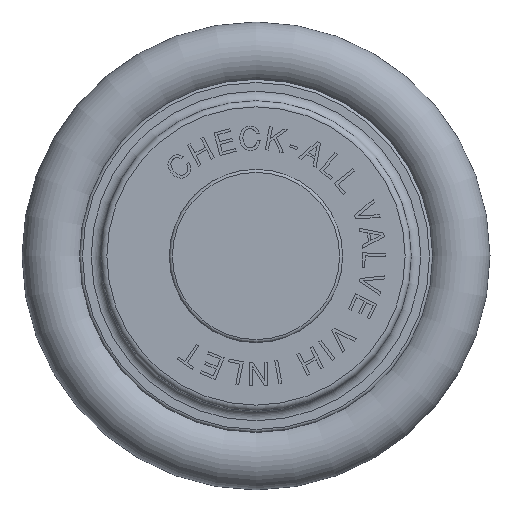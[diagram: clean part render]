
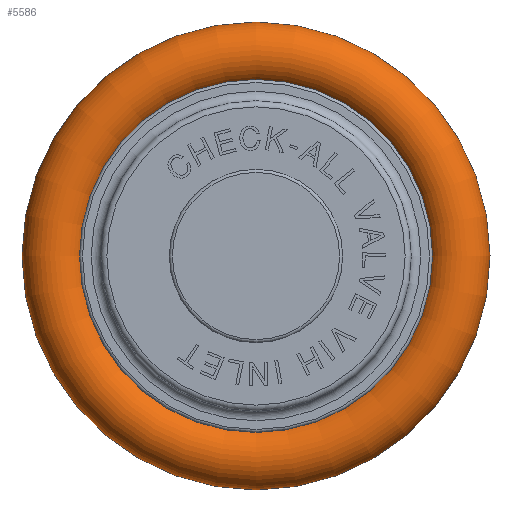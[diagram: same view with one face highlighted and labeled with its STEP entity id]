
A CAD part, left-side view. The second image highlights one B-rep face of the part: STEP entity #5586.
In plain terms, the highlighted toroidal (fillet/blend) face has major radius 16.891 mm and minor radius 2.667 mm.
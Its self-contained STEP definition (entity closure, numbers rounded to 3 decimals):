
#37=TOROIDAL_SURFACE('',#5826,16.891,2.667);
#1275=ORIENTED_EDGE('',*,*,#2395,.T.);
#1276=ORIENTED_EDGE('',*,*,#2393,.F.);
#2393=EDGE_CURVE('',#2953,#2953,#3165,.T.);
#2395=EDGE_CURVE('',#2955,#2955,#3167,.T.);
#2953=VERTEX_POINT('',#7529);
#2955=VERTEX_POINT('',#7534);
#3165=CIRCLE('',#5824,14.706);
#3167=CIRCLE('',#5827,14.724);
#3218=EDGE_LOOP('',(#1275));
#3219=EDGE_LOOP('',(#1276));
#3501=FACE_BOUND('',#3218,.T.);
#3502=FACE_BOUND('',#3219,.T.);
#5586=ADVANCED_FACE('',(#3501,#3502),#37,.T.);
#5824=AXIS2_PLACEMENT_3D('',#7528,#6253,#6254);
#5826=AXIS2_PLACEMENT_3D('',#7532,#6257,#6258);
#5827=AXIS2_PLACEMENT_3D('',#7533,#6259,#6260);
#6253=DIRECTION('',(-1.,0.,0.));
#6254=DIRECTION('',(0.,0.,1.));
#6257=DIRECTION('',(-1.,0.,0.));
#6258=DIRECTION('',(0.,0.,1.));
#6259=DIRECTION('',(-1.,0.,0.));
#6260=DIRECTION('',(0.,0.,1.));
#7528=CARTESIAN_POINT('',(10.677,0.,0.));
#7529=CARTESIAN_POINT('',(10.677,0.,14.706));
#7532=CARTESIAN_POINT('',(12.207,0.,0.));
#7533=CARTESIAN_POINT('',(13.762,0.,0.));
#7534=CARTESIAN_POINT('',(13.762,0.,14.724));
